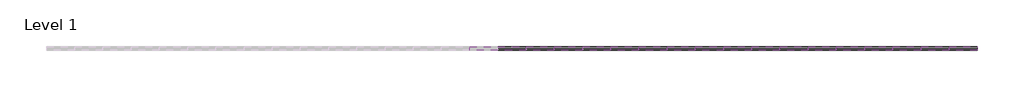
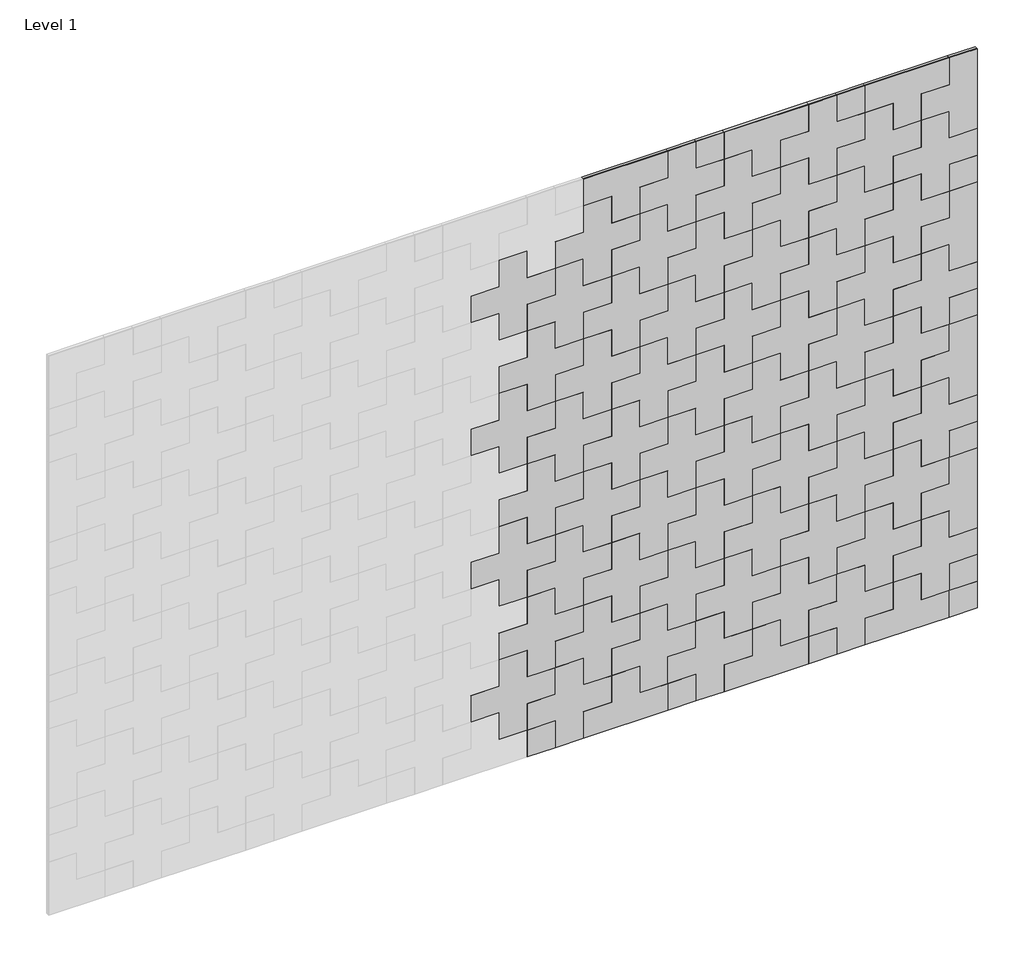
# One storey, part 2 of 2: 80 proxies.
"""IFC4 building model written with IfcOpenShell, lengths in millimetres."""

from ifc_helpers import new_model, si_unit, origin, place, context, project, spatial, transform, mapped, element, save
from components import plus_block_6a39ef65, plus_block_097eb3e5, plus_block_886bbecf, plus_block_975a3b46, plus_block_fa46ec61

model = new_model("IFC4")

# Units and contexts
model_context = context("Model", 3, world=origin())
ifc_project = project(units=[si_unit("LENGTHUNIT", "METRE", prefix="MILLI")], contexts=[model_context])

# Site, building, storey
site = spatial("IfcSite", under=ifc_project)
building = spatial("IfcBuilding", under=site)
storey = spatial("IfcBuildingStorey", under=building, Name="Level 1", Elevation=0.0)

# Proxies
placement = place(None, origin())
plus_block_shape = plus_block_6a39ef65(model_context)
element("IfcBuildingElementProxy", 1, Name="FilzFelt_Plus_Block : Plus Block", ObjectType="FilzFelt_Plus_Block : Plus Block", at=placement, inside=storey, context=model_context, shape_type="MappedRepresentation", body=[
    mapped(plus_block_shape, transform((22587.0189919, -17477.9339335, 1582.5), x_axis=(1.0, 0.0, 0.0), y_axis=(0.0, 0.0, 1.0), z_axis=(0.0, -1.0, 0.0))),
])
element("IfcBuildingElementProxy", 2, Name="FilzFelt_Plus_Block : Plus Block", ObjectType="FilzFelt_Plus_Block : Plus Block", at=placement, inside=storey, context=model_context, shape_type="MappedRepresentation", body=[
    mapped(plus_block_shape, transform((21062.0189919, -17477.9339335, 1582.5), x_axis=(1.0, 0.0, 0.0), y_axis=(0.0, 0.0, 1.0), z_axis=(0.0, -1.0, 0.0))),
])
element("IfcBuildingElementProxy", 3, Name="FilzFelt_Plus_Block : Plus Block", ObjectType="FilzFelt_Plus_Block : Plus Block", at=placement, inside=storey, context=model_context, shape_type="MappedRepresentation", body=[
    mapped(plus_block_shape, transform((21570.3523252, -17477.9339335, 1582.5), x_axis=(1.0, 0.0, 0.0), y_axis=(0.0, 0.0, 1.0), z_axis=(0.0, -1.0, 0.0))),
])
element("IfcBuildingElementProxy", 4, Name="FilzFelt_Plus_Block : Plus Block", ObjectType="FilzFelt_Plus_Block : Plus Block", at=placement, inside=storey, context=model_context, shape_type="MappedRepresentation", body=[
    mapped(plus_block_shape, transform((22078.6856586, -17477.9339335, 1582.5), x_axis=(1.0, 0.0, 0.0), y_axis=(0.0, 0.0, 1.0), z_axis=(0.0, -1.0, 0.0))),
])
element("IfcBuildingElementProxy", 5, Name="FilzFelt_Plus_Block : Plus Block", ObjectType="FilzFelt_Plus_Block : Plus Block", at=placement, inside=storey, context=model_context, shape_type="MappedRepresentation", body=[
    mapped(plus_block_shape, transform((21265.3523252, -17477.9339335, -44.1666667), x_axis=(1.0, 0.0, 0.0), y_axis=(0.0, 0.0, 1.0), z_axis=(0.0, -1.0, 0.0))),
])
element("IfcBuildingElementProxy", 6, Name="FilzFelt_Plus_Block : Plus Block", ObjectType="FilzFelt_Plus_Block : Plus Block", at=placement, inside=storey, context=model_context, shape_type="MappedRepresentation", body=[
    mapped(plus_block_shape, transform((21773.6856586, -17477.9339335, -44.1666667), x_axis=(1.0, 0.0, 0.0), y_axis=(0.0, 0.0, 1.0), z_axis=(0.0, -1.0, 0.0))),
])
element("IfcBuildingElementProxy", 7, Name="FilzFelt_Plus_Block : Plus Block", ObjectType="FilzFelt_Plus_Block : Plus Block", at=placement, inside=storey, context=model_context, shape_type="MappedRepresentation", body=[
    mapped(plus_block_shape, transform((22282.0189919, -17477.9339335, -44.1666667), x_axis=(1.0, 0.0, 0.0), y_axis=(0.0, 0.0, 1.0), z_axis=(0.0, -1.0, 0.0))),
])
element("IfcBuildingElementProxy", 8, Name="FilzFelt_Plus_Block : Plus Block", ObjectType="FilzFelt_Plus_Block : Plus Block", at=placement, inside=storey, context=model_context, shape_type="MappedRepresentation", body=[
    mapped(plus_block_shape, transform((22383.6856586, -17477.9339335, 1175.8333333), x_axis=(1.0, 0.0, 0.0), y_axis=(0.0, 0.0, 1.0), z_axis=(0.0, -1.0, 0.0))),
])
element("IfcBuildingElementProxy", 9, Name="FilzFelt_Plus_Block : Plus Block", ObjectType="FilzFelt_Plus_Block : Plus Block", at=placement, inside=storey, context=model_context, shape_type="MappedRepresentation", body=[
    mapped(plus_block_shape, transform((21367.0189919, -17477.9339335, 1175.8333333), x_axis=(1.0, 0.0, 0.0), y_axis=(0.0, 0.0, 1.0), z_axis=(0.0, -1.0, 0.0))),
])
element("IfcBuildingElementProxy", 10, Name="FilzFelt_Plus_Block : Plus Block", ObjectType="FilzFelt_Plus_Block : Plus Block", at=placement, inside=storey, context=model_context, shape_type="MappedRepresentation", body=[
    mapped(plus_block_shape, transform((21875.3523252, -17477.9339335, 1175.8333333), x_axis=(1.0, 0.0, 0.0), y_axis=(0.0, 0.0, 1.0), z_axis=(0.0, -1.0, 0.0))),
])
element("IfcBuildingElementProxy", 11, Name="FilzFelt_Plus_Block : Plus Block", ObjectType="FilzFelt_Plus_Block : Plus Block", at=placement, inside=storey, context=model_context, shape_type="MappedRepresentation", body=[
    mapped(plus_block_shape, transform((21163.6856586, -17477.9339335, 769.1666667), x_axis=(1.0, 0.0, 0.0), y_axis=(0.0, 0.0, 1.0), z_axis=(0.0, -1.0, 0.0))),
])
element("IfcBuildingElementProxy", 12, Name="FilzFelt_Plus_Block : Plus Block", ObjectType="FilzFelt_Plus_Block : Plus Block", at=placement, inside=storey, context=model_context, shape_type="MappedRepresentation", body=[
    mapped(plus_block_shape, transform((21672.0189919, -17477.9339335, 769.1666667), x_axis=(1.0, 0.0, 0.0), y_axis=(0.0, 0.0, 1.0), z_axis=(0.0, -1.0, 0.0))),
])
element("IfcBuildingElementProxy", 13, Name="FilzFelt_Plus_Block : Plus Block", ObjectType="FilzFelt_Plus_Block : Plus Block", at=placement, inside=storey, context=model_context, shape_type="MappedRepresentation", body=[
    mapped(plus_block_shape, transform((22180.3523252, -17477.9339335, 769.1666667), x_axis=(1.0, 0.0, 0.0), y_axis=(0.0, 0.0, 1.0), z_axis=(0.0, -1.0, 0.0))),
])
element("IfcBuildingElementProxy", 14, Name="FilzFelt_Plus_Block : Plus Block", ObjectType="FilzFelt_Plus_Block : Plus Block", at=placement, inside=storey, context=model_context, shape_type="MappedRepresentation", body=[
    mapped(plus_block_shape, transform((21468.6856586, -17477.9339335, 362.5), x_axis=(1.0, 0.0, 0.0), y_axis=(0.0, 0.0, 1.0), z_axis=(0.0, -1.0, 0.0))),
])
element("IfcBuildingElementProxy", 15, Name="FilzFelt_Plus_Block : Plus Block", ObjectType="FilzFelt_Plus_Block : Plus Block", at=placement, inside=storey, context=model_context, shape_type="MappedRepresentation", body=[
    mapped(plus_block_shape, transform((21977.0189919, -17477.9339335, 362.5), x_axis=(1.0, 0.0, 0.0), y_axis=(0.0, 0.0, 1.0), z_axis=(0.0, -1.0, 0.0))),
])
element("IfcBuildingElementProxy", 16, Name="FilzFelt_Plus_Block : Plus Block", ObjectType="FilzFelt_Plus_Block : Plus Block", at=placement, inside=storey, context=model_context, shape_type="MappedRepresentation", body=[
    mapped(plus_block_shape, transform((22485.3523252, -17477.9339335, 362.5), x_axis=(1.0, 0.0, 0.0), y_axis=(0.0, 0.0, 1.0), z_axis=(0.0, -1.0, 0.0))),
])
plus_block_2_shape = plus_block_097eb3e5(model_context)
element("IfcBuildingElementProxy", 17, Name="FilzFelt_Plus_Block : Plus Block", ObjectType="FilzFelt_Plus_Block : Plus Block", at=placement, inside=storey, context=model_context, shape_type="MappedRepresentation", body=[
    mapped(plus_block_2_shape, transform((21773.6856586, -17477.9339335, 1989.1666667), x_axis=(1.0, 0.0, 0.0), y_axis=(0.0, 0.0, 1.0), z_axis=(0.0, -1.0, 0.0))),
])
element("IfcBuildingElementProxy", 18, Name="FilzFelt_Plus_Block : Plus Block", ObjectType="FilzFelt_Plus_Block : Plus Block", at=placement, inside=storey, context=model_context, shape_type="MappedRepresentation", body=[
    mapped(plus_block_2_shape, transform((22282.0189919, -17477.9339335, 1989.1666667), x_axis=(1.0, 0.0, 0.0), y_axis=(0.0, 0.0, 1.0), z_axis=(0.0, -1.0, 0.0))),
])
element("IfcBuildingElementProxy", 19, Name="FilzFelt_Plus_Block : Plus Block", ObjectType="FilzFelt_Plus_Block : Plus Block", at=placement, inside=storey, context=model_context, shape_type="MappedRepresentation", body=[
    mapped(plus_block_2_shape, transform((22688.6856586, -17477.9339335, 57.5), x_axis=(1.0, 0.0, 0.0), y_axis=(0.0, 0.0, 1.0), z_axis=(0.0, -1.0, 0.0))),
])
plus_block_3_shape = plus_block_886bbecf(model_context)
element("IfcBuildingElementProxy", 20, Name="FilzFelt_Plus_Block : Plus Block", ObjectType="FilzFelt_Plus_Block : Plus Block", at=placement, inside=storey, context=model_context, shape_type="MappedRepresentation", body=[
    mapped(plus_block_3_shape, transform((22688.6856586, -17477.9339335, 769.1666667), x_axis=(-1.0, 0.0, 0.0), y_axis=(0.0, 0.0, -1.0), z_axis=(0.0, -1.0, 0.0))),
])
plus_block_4_shape = plus_block_975a3b46(model_context)
element("IfcBuildingElementProxy", 21, Name="FilzFelt_Plus_Block : Plus Block", ObjectType="FilzFelt_Plus_Block : Plus Block", at=placement, inside=storey, context=model_context, shape_type="MappedRepresentation", body=[
    mapped(plus_block_4_shape, transform((21468.6856586, -17477.9339335, 1887.5), x_axis=(1.0, 0.0, 0.0), y_axis=(0.0, 0.0, 1.0), z_axis=(0.0, -1.0, 0.0))),
])
element("IfcBuildingElementProxy", 22, Name="FilzFelt_Plus_Block : Plus Block", ObjectType="FilzFelt_Plus_Block : Plus Block", at=placement, inside=storey, context=model_context, shape_type="MappedRepresentation", body=[
    mapped(plus_block_4_shape, transform((21977.0189919, -17477.9339335, 1887.5), x_axis=(1.0, 0.0, 0.0), y_axis=(0.0, 0.0, 1.0), z_axis=(0.0, -1.0, 0.0))),
])
element("IfcBuildingElementProxy", 23, Name="FilzFelt_Plus_Block : Plus Block", ObjectType="FilzFelt_Plus_Block : Plus Block", at=placement, inside=storey, context=model_context, shape_type="MappedRepresentation", body=[
    mapped(plus_block_4_shape, transform((22485.3523252, -17477.9339335, 1887.5), x_axis=(1.0, 0.0, 0.0), y_axis=(0.0, 0.0, 1.0), z_axis=(0.0, -1.0, 0.0))),
])
element("IfcBuildingElementProxy", 24, Name="FilzFelt_Plus_Block : Plus Block", ObjectType="FilzFelt_Plus_Block : Plus Block", at=placement, inside=storey, context=model_context, shape_type="MappedRepresentation", body=[
    mapped(plus_block_shape, transform((21265.3523252, -17477.9339335, 1480.8333333), x_axis=(1.0, 0.0, 0.0), y_axis=(0.0, 0.0, 1.0), z_axis=(0.0, -1.0, 0.0))),
])
element("IfcBuildingElementProxy", 25, Name="FilzFelt_Plus_Block : Plus Block", ObjectType="FilzFelt_Plus_Block : Plus Block", at=placement, inside=storey, context=model_context, shape_type="MappedRepresentation", body=[
    mapped(plus_block_shape, transform((21773.6856586, -17477.9339335, 1480.8333333), x_axis=(1.0, 0.0, 0.0), y_axis=(0.0, 0.0, 1.0), z_axis=(0.0, -1.0, 0.0))),
])
element("IfcBuildingElementProxy", 26, Name="FilzFelt_Plus_Block : Plus Block", ObjectType="FilzFelt_Plus_Block : Plus Block", at=placement, inside=storey, context=model_context, shape_type="MappedRepresentation", body=[
    mapped(plus_block_shape, transform((22282.0189919, -17477.9339335, 1480.8333333), x_axis=(1.0, 0.0, 0.0), y_axis=(0.0, 0.0, 1.0), z_axis=(0.0, -1.0, 0.0))),
])
element("IfcBuildingElementProxy", 27, Name="FilzFelt_Plus_Block : Plus Block", ObjectType="FilzFelt_Plus_Block : Plus Block", at=placement, inside=storey, context=model_context, shape_type="MappedRepresentation", body=[
    mapped(plus_block_shape, transform((22587.0189919, -17477.9339335, 1074.1666667), x_axis=(1.0, 0.0, 0.0), y_axis=(0.0, 0.0, 1.0), z_axis=(0.0, -1.0, 0.0))),
])
element("IfcBuildingElementProxy", 28, Name="FilzFelt_Plus_Block : Plus Block", ObjectType="FilzFelt_Plus_Block : Plus Block", at=placement, inside=storey, context=model_context, shape_type="MappedRepresentation", body=[
    mapped(plus_block_shape, transform((21062.0189919, -17477.9339335, 1074.1666667), x_axis=(1.0, 0.0, 0.0), y_axis=(0.0, 0.0, 1.0), z_axis=(0.0, -1.0, 0.0))),
])
element("IfcBuildingElementProxy", 29, Name="FilzFelt_Plus_Block : Plus Block", ObjectType="FilzFelt_Plus_Block : Plus Block", at=placement, inside=storey, context=model_context, shape_type="MappedRepresentation", body=[
    mapped(plus_block_shape, transform((21570.3523252, -17477.9339335, 1074.1666667), x_axis=(1.0, 0.0, 0.0), y_axis=(0.0, 0.0, 1.0), z_axis=(0.0, -1.0, 0.0))),
])
element("IfcBuildingElementProxy", 30, Name="FilzFelt_Plus_Block : Plus Block", ObjectType="FilzFelt_Plus_Block : Plus Block", at=placement, inside=storey, context=model_context, shape_type="MappedRepresentation", body=[
    mapped(plus_block_shape, transform((22078.6856586, -17477.9339335, 1074.1666667), x_axis=(1.0, 0.0, 0.0), y_axis=(0.0, 0.0, 1.0), z_axis=(0.0, -1.0, 0.0))),
])
element("IfcBuildingElementProxy", 31, Name="FilzFelt_Plus_Block : Plus Block", ObjectType="FilzFelt_Plus_Block : Plus Block", at=placement, inside=storey, context=model_context, shape_type="MappedRepresentation", body=[
    mapped(plus_block_shape, transform((22383.6856586, -17477.9339335, 667.5), x_axis=(1.0, 0.0, 0.0), y_axis=(0.0, 0.0, 1.0), z_axis=(0.0, -1.0, 0.0))),
])
element("IfcBuildingElementProxy", 32, Name="FilzFelt_Plus_Block : Plus Block", ObjectType="FilzFelt_Plus_Block : Plus Block", at=placement, inside=storey, context=model_context, shape_type="MappedRepresentation", body=[
    mapped(plus_block_shape, transform((21367.0189919, -17477.9339335, 667.5), x_axis=(1.0, 0.0, 0.0), y_axis=(0.0, 0.0, 1.0), z_axis=(0.0, -1.0, 0.0))),
])
element("IfcBuildingElementProxy", 33, Name="FilzFelt_Plus_Block : Plus Block", ObjectType="FilzFelt_Plus_Block : Plus Block", at=placement, inside=storey, context=model_context, shape_type="MappedRepresentation", body=[
    mapped(plus_block_shape, transform((21875.3523252, -17477.9339335, 667.5), x_axis=(1.0, 0.0, 0.0), y_axis=(0.0, 0.0, 1.0), z_axis=(0.0, -1.0, 0.0))),
])
element("IfcBuildingElementProxy", 34, Name="FilzFelt_Plus_Block : Plus Block", ObjectType="FilzFelt_Plus_Block : Plus Block", at=placement, inside=storey, context=model_context, shape_type="MappedRepresentation", body=[
    mapped(plus_block_shape, transform((21163.6856586, -17477.9339335, 260.8333333), x_axis=(1.0, 0.0, 0.0), y_axis=(0.0, 0.0, 1.0), z_axis=(0.0, -1.0, 0.0))),
])
element("IfcBuildingElementProxy", 35, Name="FilzFelt_Plus_Block : Plus Block", ObjectType="FilzFelt_Plus_Block : Plus Block", at=placement, inside=storey, context=model_context, shape_type="MappedRepresentation", body=[
    mapped(plus_block_shape, transform((21672.0189919, -17477.9339335, 260.8333333), x_axis=(1.0, 0.0, 0.0), y_axis=(0.0, 0.0, 1.0), z_axis=(0.0, -1.0, 0.0))),
])
element("IfcBuildingElementProxy", 36, Name="FilzFelt_Plus_Block : Plus Block", ObjectType="FilzFelt_Plus_Block : Plus Block", at=placement, inside=storey, context=model_context, shape_type="MappedRepresentation", body=[
    mapped(plus_block_shape, transform((22180.3523252, -17477.9339335, 260.8333333), x_axis=(1.0, 0.0, 0.0), y_axis=(0.0, 0.0, 1.0), z_axis=(0.0, -1.0, 0.0))),
])
element("IfcBuildingElementProxy", 37, Name="FilzFelt_Plus_Block : Plus Block", ObjectType="FilzFelt_Plus_Block : Plus Block", at=placement, inside=storey, context=model_context, shape_type="MappedRepresentation", body=[
    mapped(plus_block_2_shape, transform((22688.6856586, -17477.9339335, 1582.5), x_axis=(1.0, 0.0, 0.0), y_axis=(0.0, 0.0, 1.0), z_axis=(0.0, -1.0, 0.0))),
])
element("IfcBuildingElementProxy", 38, Name="FilzFelt_Plus_Block : Plus Block", ObjectType="FilzFelt_Plus_Block : Plus Block", at=placement, inside=storey, context=model_context, shape_type="MappedRepresentation", body=[
    mapped(plus_block_3_shape, transform((22688.6856586, -17477.9339335, 260.8333333), x_axis=(-1.0, 0.0, 0.0), y_axis=(0.0, 0.0, -1.0), z_axis=(0.0, -1.0, 0.0))),
])
element("IfcBuildingElementProxy", 39, Name="FilzFelt_Plus_Block : Plus Block", ObjectType="FilzFelt_Plus_Block : Plus Block", at=placement, inside=storey, context=model_context, shape_type="MappedRepresentation", body=[
    mapped(plus_block_3_shape, transform((21468.6856586, -17477.9339335, -145.8333333), x_axis=(0.0, 0.0, 1.0), y_axis=(-1.0, 0.0, 0.0), z_axis=(0.0, -1.0, 0.0))),
])
element("IfcBuildingElementProxy", 40, Name="FilzFelt_Plus_Block : Plus Block", ObjectType="FilzFelt_Plus_Block : Plus Block", at=placement, inside=storey, context=model_context, shape_type="MappedRepresentation", body=[
    mapped(plus_block_3_shape, transform((21977.0189919, -17477.9339335, -145.8333333), x_axis=(0.0, 0.0, 1.0), y_axis=(-1.0, 0.0, 0.0), z_axis=(0.0, -1.0, 0.0))),
])
element("IfcBuildingElementProxy", 41, Name="FilzFelt_Plus_Block : Plus Block", ObjectType="FilzFelt_Plus_Block : Plus Block", at=placement, inside=storey, context=model_context, shape_type="MappedRepresentation", body=[
    mapped(plus_block_3_shape, transform((22485.3523252, -17477.9339335, -145.8333333), x_axis=(0.0, 0.0, 1.0), y_axis=(-1.0, 0.0, 0.0), z_axis=(0.0, -1.0, 0.0))),
])
element("IfcBuildingElementProxy", 42, Name="FilzFelt_Plus_Block : Plus Block", ObjectType="FilzFelt_Plus_Block : Plus Block", at=placement, inside=storey, context=model_context, shape_type="MappedRepresentation", body=[
    mapped(plus_block_shape, transform((21672.0189919, -17477.9339335, 1785.8333333), x_axis=(1.0, 0.0, 0.0), y_axis=(0.0, 0.0, 1.0), z_axis=(0.0, -1.0, 0.0))),
])
element("IfcBuildingElementProxy", 43, Name="FilzFelt_Plus_Block : Plus Block", ObjectType="FilzFelt_Plus_Block : Plus Block", at=placement, inside=storey, context=model_context, shape_type="MappedRepresentation", body=[
    mapped(plus_block_shape, transform((22180.3523252, -17477.9339335, 1785.8333333), x_axis=(1.0, 0.0, 0.0), y_axis=(0.0, 0.0, 1.0), z_axis=(0.0, -1.0, 0.0))),
])
element("IfcBuildingElementProxy", 44, Name="FilzFelt_Plus_Block : Plus Block", ObjectType="FilzFelt_Plus_Block : Plus Block", at=placement, inside=storey, context=model_context, shape_type="MappedRepresentation", body=[
    mapped(plus_block_shape, transform((21468.6856586, -17477.9339335, 1379.1666667), x_axis=(1.0, 0.0, 0.0), y_axis=(0.0, 0.0, 1.0), z_axis=(0.0, -1.0, 0.0))),
])
element("IfcBuildingElementProxy", 45, Name="FilzFelt_Plus_Block : Plus Block", ObjectType="FilzFelt_Plus_Block : Plus Block", at=placement, inside=storey, context=model_context, shape_type="MappedRepresentation", body=[
    mapped(plus_block_shape, transform((21977.0189919, -17477.9339335, 1379.1666667), x_axis=(1.0, 0.0, 0.0), y_axis=(0.0, 0.0, 1.0), z_axis=(0.0, -1.0, 0.0))),
])
element("IfcBuildingElementProxy", 46, Name="FilzFelt_Plus_Block : Plus Block", ObjectType="FilzFelt_Plus_Block : Plus Block", at=placement, inside=storey, context=model_context, shape_type="MappedRepresentation", body=[
    mapped(plus_block_shape, transform((22485.3523252, -17477.9339335, 1379.1666667), x_axis=(1.0, 0.0, 0.0), y_axis=(0.0, 0.0, 1.0), z_axis=(0.0, -1.0, 0.0))),
])
element("IfcBuildingElementProxy", 47, Name="FilzFelt_Plus_Block : Plus Block", ObjectType="FilzFelt_Plus_Block : Plus Block", at=placement, inside=storey, context=model_context, shape_type="MappedRepresentation", body=[
    mapped(plus_block_shape, transform((22587.0189919, -17477.9339335, 565.8333333), x_axis=(1.0, 0.0, 0.0), y_axis=(0.0, 0.0, 1.0), z_axis=(0.0, -1.0, 0.0))),
])
element("IfcBuildingElementProxy", 48, Name="FilzFelt_Plus_Block : Plus Block", ObjectType="FilzFelt_Plus_Block : Plus Block", at=placement, inside=storey, context=model_context, shape_type="MappedRepresentation", body=[
    mapped(plus_block_shape, transform((21265.3523252, -17477.9339335, 972.5), x_axis=(1.0, 0.0, 0.0), y_axis=(0.0, 0.0, 1.0), z_axis=(0.0, -1.0, 0.0))),
])
element("IfcBuildingElementProxy", 49, Name="FilzFelt_Plus_Block : Plus Block", ObjectType="FilzFelt_Plus_Block : Plus Block", at=placement, inside=storey, context=model_context, shape_type="MappedRepresentation", body=[
    mapped(plus_block_shape, transform((21773.6856586, -17477.9339335, 972.5), x_axis=(1.0, 0.0, 0.0), y_axis=(0.0, 0.0, 1.0), z_axis=(0.0, -1.0, 0.0))),
])
element("IfcBuildingElementProxy", 50, Name="FilzFelt_Plus_Block : Plus Block", ObjectType="FilzFelt_Plus_Block : Plus Block", at=placement, inside=storey, context=model_context, shape_type="MappedRepresentation", body=[
    mapped(plus_block_shape, transform((22282.0189919, -17477.9339335, 972.5), x_axis=(1.0, 0.0, 0.0), y_axis=(0.0, 0.0, 1.0), z_axis=(0.0, -1.0, 0.0))),
])
element("IfcBuildingElementProxy", 51, Name="FilzFelt_Plus_Block : Plus Block", ObjectType="FilzFelt_Plus_Block : Plus Block", at=placement, inside=storey, context=model_context, shape_type="MappedRepresentation", body=[
    mapped(plus_block_shape, transform((21062.0189919, -17477.9339335, 565.8333333), x_axis=(1.0, 0.0, 0.0), y_axis=(0.0, 0.0, 1.0), z_axis=(0.0, -1.0, 0.0))),
])
element("IfcBuildingElementProxy", 52, Name="FilzFelt_Plus_Block : Plus Block", ObjectType="FilzFelt_Plus_Block : Plus Block", at=placement, inside=storey, context=model_context, shape_type="MappedRepresentation", body=[
    mapped(plus_block_shape, transform((21570.3523252, -17477.9339335, 565.8333333), x_axis=(1.0, 0.0, 0.0), y_axis=(0.0, 0.0, 1.0), z_axis=(0.0, -1.0, 0.0))),
])
element("IfcBuildingElementProxy", 53, Name="FilzFelt_Plus_Block : Plus Block", ObjectType="FilzFelt_Plus_Block : Plus Block", at=placement, inside=storey, context=model_context, shape_type="MappedRepresentation", body=[
    mapped(plus_block_shape, transform((22078.6856586, -17477.9339335, 565.8333333), x_axis=(1.0, 0.0, 0.0), y_axis=(0.0, 0.0, 1.0), z_axis=(0.0, -1.0, 0.0))),
])
element("IfcBuildingElementProxy", 54, Name="FilzFelt_Plus_Block : Plus Block", ObjectType="FilzFelt_Plus_Block : Plus Block", at=placement, inside=storey, context=model_context, shape_type="MappedRepresentation", body=[
    mapped(plus_block_shape, transform((21367.0189919, -17477.9339335, 159.1666667), x_axis=(1.0, 0.0, 0.0), y_axis=(0.0, 0.0, 1.0), z_axis=(0.0, -1.0, 0.0))),
])
element("IfcBuildingElementProxy", 55, Name="FilzFelt_Plus_Block : Plus Block", ObjectType="FilzFelt_Plus_Block : Plus Block", at=placement, inside=storey, context=model_context, shape_type="MappedRepresentation", body=[
    mapped(plus_block_shape, transform((21875.3523252, -17477.9339335, 159.1666667), x_axis=(1.0, 0.0, 0.0), y_axis=(0.0, 0.0, 1.0), z_axis=(0.0, -1.0, 0.0))),
])
element("IfcBuildingElementProxy", 56, Name="FilzFelt_Plus_Block : Plus Block", ObjectType="FilzFelt_Plus_Block : Plus Block", at=placement, inside=storey, context=model_context, shape_type="MappedRepresentation", body=[
    mapped(plus_block_shape, transform((22383.6856586, -17477.9339335, 159.1666667), x_axis=(1.0, 0.0, 0.0), y_axis=(0.0, 0.0, 1.0), z_axis=(0.0, -1.0, 0.0))),
])
element("IfcBuildingElementProxy", 57, Name="FilzFelt_Plus_Block : Plus Block", ObjectType="FilzFelt_Plus_Block : Plus Block", at=placement, inside=storey, context=model_context, shape_type="MappedRepresentation", body=[
    mapped(plus_block_shape, transform((22383.6856586, -17477.9339335, 1684.1666667), x_axis=(1.0, 0.0, 0.0), y_axis=(0.0, 0.0, 1.0), z_axis=(0.0, -1.0, 0.0))),
])
element("IfcBuildingElementProxy", 58, Name="FilzFelt_Plus_Block : Plus Block", ObjectType="FilzFelt_Plus_Block : Plus Block", at=placement, inside=storey, context=model_context, shape_type="MappedRepresentation", body=[
    mapped(plus_block_shape, transform((21367.0189919, -17477.9339335, 1684.1666667), x_axis=(1.0, 0.0, 0.0), y_axis=(0.0, 0.0, 1.0), z_axis=(0.0, -1.0, 0.0))),
])
element("IfcBuildingElementProxy", 59, Name="FilzFelt_Plus_Block : Plus Block", ObjectType="FilzFelt_Plus_Block : Plus Block", at=placement, inside=storey, context=model_context, shape_type="MappedRepresentation", body=[
    mapped(plus_block_shape, transform((21875.3523252, -17477.9339335, 1684.1666667), x_axis=(1.0, 0.0, 0.0), y_axis=(0.0, 0.0, 1.0), z_axis=(0.0, -1.0, 0.0))),
])
element("IfcBuildingElementProxy", 60, Name="FilzFelt_Plus_Block : Plus Block", ObjectType="FilzFelt_Plus_Block : Plus Block", at=placement, inside=storey, context=model_context, shape_type="MappedRepresentation", body=[
    mapped(plus_block_shape, transform((22587.0189919, -17477.9339335, 57.5), x_axis=(1.0, 0.0, 0.0), y_axis=(0.0, 0.0, 1.0), z_axis=(0.0, -1.0, 0.0))),
])
element("IfcBuildingElementProxy", 61, Name="FilzFelt_Plus_Block : Plus Block", ObjectType="FilzFelt_Plus_Block : Plus Block", at=placement, inside=storey, context=model_context, shape_type="MappedRepresentation", body=[
    mapped(plus_block_shape, transform((21163.6856586, -17477.9339335, 1277.5), x_axis=(1.0, 0.0, 0.0), y_axis=(0.0, 0.0, 1.0), z_axis=(0.0, -1.0, 0.0))),
])
element("IfcBuildingElementProxy", 62, Name="FilzFelt_Plus_Block : Plus Block", ObjectType="FilzFelt_Plus_Block : Plus Block", at=placement, inside=storey, context=model_context, shape_type="MappedRepresentation", body=[
    mapped(plus_block_shape, transform((21672.0189919, -17477.9339335, 1277.5), x_axis=(1.0, 0.0, 0.0), y_axis=(0.0, 0.0, 1.0), z_axis=(0.0, -1.0, 0.0))),
])
element("IfcBuildingElementProxy", 63, Name="FilzFelt_Plus_Block : Plus Block", ObjectType="FilzFelt_Plus_Block : Plus Block", at=placement, inside=storey, context=model_context, shape_type="MappedRepresentation", body=[
    mapped(plus_block_shape, transform((22180.3523252, -17477.9339335, 1277.5), x_axis=(1.0, 0.0, 0.0), y_axis=(0.0, 0.0, 1.0), z_axis=(0.0, -1.0, 0.0))),
])
element("IfcBuildingElementProxy", 64, Name="FilzFelt_Plus_Block : Plus Block", ObjectType="FilzFelt_Plus_Block : Plus Block", at=placement, inside=storey, context=model_context, shape_type="MappedRepresentation", body=[
    mapped(plus_block_shape, transform((21468.6856586, -17477.9339335, 870.8333333), x_axis=(1.0, 0.0, 0.0), y_axis=(0.0, 0.0, 1.0), z_axis=(0.0, -1.0, 0.0))),
])
element("IfcBuildingElementProxy", 65, Name="FilzFelt_Plus_Block : Plus Block", ObjectType="FilzFelt_Plus_Block : Plus Block", at=placement, inside=storey, context=model_context, shape_type="MappedRepresentation", body=[
    mapped(plus_block_shape, transform((21977.0189919, -17477.9339335, 870.8333333), x_axis=(1.0, 0.0, 0.0), y_axis=(0.0, 0.0, 1.0), z_axis=(0.0, -1.0, 0.0))),
])
element("IfcBuildingElementProxy", 66, Name="FilzFelt_Plus_Block : Plus Block", ObjectType="FilzFelt_Plus_Block : Plus Block", at=placement, inside=storey, context=model_context, shape_type="MappedRepresentation", body=[
    mapped(plus_block_shape, transform((22485.3523252, -17477.9339335, 870.8333333), x_axis=(1.0, 0.0, 0.0), y_axis=(0.0, 0.0, 1.0), z_axis=(0.0, -1.0, 0.0))),
])
element("IfcBuildingElementProxy", 67, Name="FilzFelt_Plus_Block : Plus Block", ObjectType="FilzFelt_Plus_Block : Plus Block", at=placement, inside=storey, context=model_context, shape_type="MappedRepresentation", body=[
    mapped(plus_block_shape, transform((21265.3523252, -17477.9339335, 464.1666667), x_axis=(1.0, 0.0, 0.0), y_axis=(0.0, 0.0, 1.0), z_axis=(0.0, -1.0, 0.0))),
])
element("IfcBuildingElementProxy", 68, Name="FilzFelt_Plus_Block : Plus Block", ObjectType="FilzFelt_Plus_Block : Plus Block", at=placement, inside=storey, context=model_context, shape_type="MappedRepresentation", body=[
    mapped(plus_block_shape, transform((21773.6856586, -17477.9339335, 464.1666667), x_axis=(1.0, 0.0, 0.0), y_axis=(0.0, 0.0, 1.0), z_axis=(0.0, -1.0, 0.0))),
])
element("IfcBuildingElementProxy", 69, Name="FilzFelt_Plus_Block : Plus Block", ObjectType="FilzFelt_Plus_Block : Plus Block", at=placement, inside=storey, context=model_context, shape_type="MappedRepresentation", body=[
    mapped(plus_block_shape, transform((22282.0189919, -17477.9339335, 464.1666667), x_axis=(1.0, 0.0, 0.0), y_axis=(0.0, 0.0, 1.0), z_axis=(0.0, -1.0, 0.0))),
])
element("IfcBuildingElementProxy", 70, Name="FilzFelt_Plus_Block : Plus Block", ObjectType="FilzFelt_Plus_Block : Plus Block", at=placement, inside=storey, context=model_context, shape_type="MappedRepresentation", body=[
    mapped(plus_block_shape, transform((21062.0189919, -17477.9339335, 57.5), x_axis=(1.0, 0.0, 0.0), y_axis=(0.0, 0.0, 1.0), z_axis=(0.0, -1.0, 0.0))),
])
element("IfcBuildingElementProxy", 71, Name="FilzFelt_Plus_Block : Plus Block", ObjectType="FilzFelt_Plus_Block : Plus Block", at=placement, inside=storey, context=model_context, shape_type="MappedRepresentation", body=[
    mapped(plus_block_shape, transform((21570.3523252, -17477.9339335, 57.5), x_axis=(1.0, 0.0, 0.0), y_axis=(0.0, 0.0, 1.0), z_axis=(0.0, -1.0, 0.0))),
])
element("IfcBuildingElementProxy", 72, Name="FilzFelt_Plus_Block : Plus Block", ObjectType="FilzFelt_Plus_Block : Plus Block", at=placement, inside=storey, context=model_context, shape_type="MappedRepresentation", body=[
    mapped(plus_block_shape, transform((22078.6856586, -17477.9339335, 57.5), x_axis=(1.0, 0.0, 0.0), y_axis=(0.0, 0.0, 1.0), z_axis=(0.0, -1.0, 0.0))),
])
element("IfcBuildingElementProxy", 73, Name="FilzFelt_Plus_Block : Plus Block", ObjectType="FilzFelt_Plus_Block : Plus Block", at=placement, inside=storey, context=model_context, shape_type="MappedRepresentation", body=[
    mapped(plus_block_3_shape, transform((22688.6856586, -17477.9339335, 1277.5), x_axis=(-1.0, 0.0, 0.0), y_axis=(0.0, 0.0, -1.0), z_axis=(0.0, -1.0, 0.0))),
])
element("IfcBuildingElementProxy", 74, Name="FilzFelt_Plus_Block : Plus Block", ObjectType="FilzFelt_Plus_Block : Plus Block", at=placement, inside=storey, context=model_context, shape_type="MappedRepresentation", body=[
    mapped(plus_block_2_shape, transform((22688.6856586, -17477.9339335, 565.8333333), x_axis=(1.0, 0.0, 0.0), y_axis=(0.0, 0.0, 1.0), z_axis=(0.0, -1.0, 0.0))),
])
plus_block_5_shape = plus_block_fa46ec61(model_context)
element("IfcBuildingElementProxy", 75, Name="FilzFelt_Plus_Block : Plus Block", ObjectType="FilzFelt_Plus_Block : Plus Block", at=placement, inside=storey, context=model_context, shape_type="MappedRepresentation", body=[
    mapped(plus_block_5_shape, transform((22688.6856586, -17477.9339335, 1785.8333333), x_axis=(1.0, 0.0, 0.0), y_axis=(0.0, 0.0, 1.0), z_axis=(0.0, -1.0, 0.0))),
])
element("IfcBuildingElementProxy", 76, Name="FilzFelt_Plus_Block : Plus Block", ObjectType="FilzFelt_Plus_Block : Plus Block", at=placement, inside=storey, context=model_context, shape_type="MappedRepresentation", body=[
    mapped(plus_block_2_shape, transform((22688.6856586, -17477.9339335, 1074.1666667), x_axis=(1.0, 0.0, 0.0), y_axis=(0.0, 0.0, 1.0), z_axis=(0.0, -1.0, 0.0))),
])
element("IfcBuildingElementProxy", 77, Name="FilzFelt_Plus_Block : Plus Block", ObjectType="FilzFelt_Plus_Block : Plus Block", at=placement, inside=storey, context=model_context, shape_type="MappedRepresentation", body=[
    mapped(plus_block_2_shape, transform((22688.6856586, -17477.9339335, -44.1666667), x_axis=(1.0, 0.0, 0.0), y_axis=(0.0, 0.0, 1.0), z_axis=(0.0, -1.0, 0.0))),
])
element("IfcBuildingElementProxy", 78, Name="FilzFelt_Plus_Block : Plus Block", ObjectType="FilzFelt_Plus_Block : Plus Block", at=placement, inside=storey, context=model_context, shape_type="MappedRepresentation", body=[
    mapped(plus_block_2_shape, transform((21163.6856586, -17477.9339335, -44.1666667), x_axis=(1.0, 0.0, 0.0), y_axis=(0.0, 0.0, 1.0), z_axis=(0.0, -1.0, 0.0))),
])
element("IfcBuildingElementProxy", 79, Name="FilzFelt_Plus_Block : Plus Block", ObjectType="FilzFelt_Plus_Block : Plus Block", at=placement, inside=storey, context=model_context, shape_type="MappedRepresentation", body=[
    mapped(plus_block_2_shape, transform((21672.0189919, -17477.9339335, -44.1666667), x_axis=(1.0, 0.0, 0.0), y_axis=(0.0, 0.0, 1.0), z_axis=(0.0, -1.0, 0.0))),
])
element("IfcBuildingElementProxy", 80, Name="FilzFelt_Plus_Block : Plus Block", ObjectType="FilzFelt_Plus_Block : Plus Block", at=placement, inside=storey, context=model_context, shape_type="MappedRepresentation", body=[
    mapped(plus_block_2_shape, transform((22180.3523252, -17477.9339335, -44.1666667), x_axis=(1.0, 0.0, 0.0), y_axis=(0.0, 0.0, 1.0), z_axis=(0.0, -1.0, 0.0))),
])

save(model, "model.ifc")
